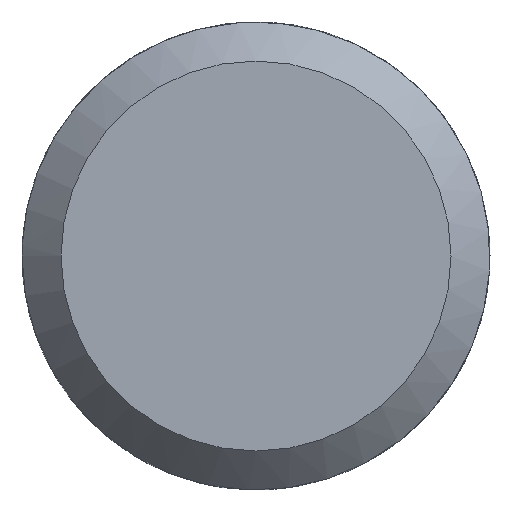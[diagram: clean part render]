
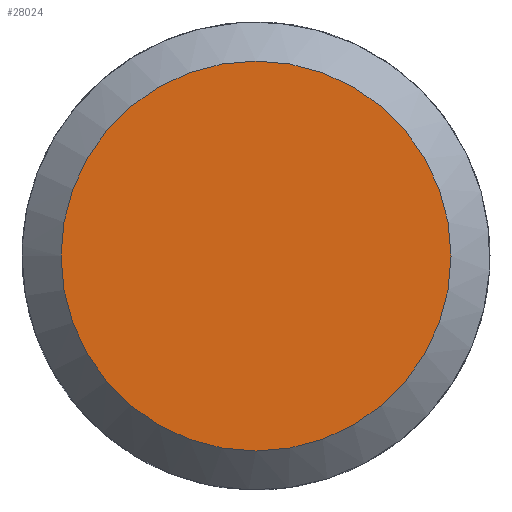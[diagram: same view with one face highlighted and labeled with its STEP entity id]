
A CAD part, left-side view. The second image highlights one B-rep face of the part: STEP entity #28024.
In plain terms, the highlighted planar face has unit normal (-1, 0, 0).
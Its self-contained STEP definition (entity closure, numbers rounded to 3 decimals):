
#7927=PLANE('',#9615);
#8291=CIRCLE('',#9614,2.5);
#9162=DIRECTION('',(1.,0.,0.));
#9163=DIRECTION('',(0.,0.,-2.5));
#9164=DIRECTION('',(-1.,0.,0.));
#9165=DIRECTION('',(0.,1.,0.));
#9614=AXIS2_PLACEMENT_3D('',#27721,#9162,#9163);
#9615=AXIS2_PLACEMENT_3D('',#27722,#9164,#9165);
#11255=ORIENTED_EDGE('',*,*,#13182,.F.);
#12394=VERTEX_POINT('',#27720);
#13182=EDGE_CURVE('',#12394,#12394,#8291,.T.);
#13425=EDGE_LOOP('',(#11255));
#13671=FACE_BOUND('',#13425,.T.);
#27720=CARTESIAN_POINT('',(61.72,158.437,-2.5));
#27721=CARTESIAN_POINT('',(61.72,158.437,0.));
#27722=CARTESIAN_POINT('',(61.72,158.437,0.));
#28024=ADVANCED_FACE('',(#13671),#7927,.T.);
